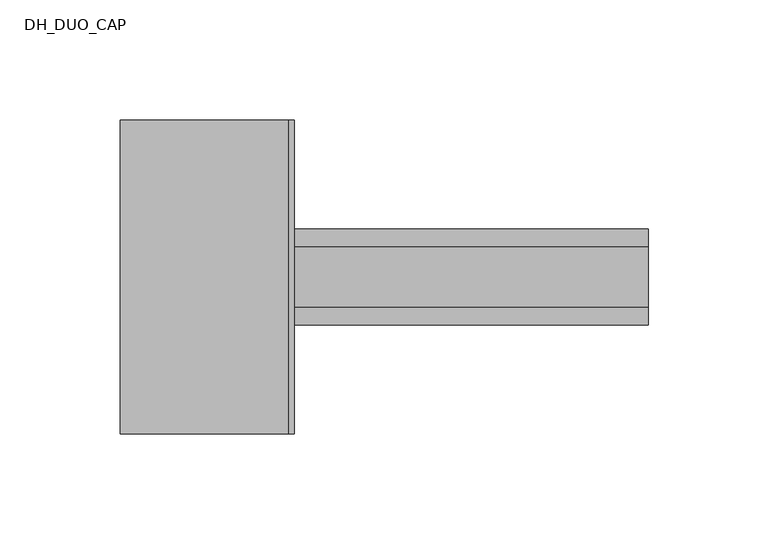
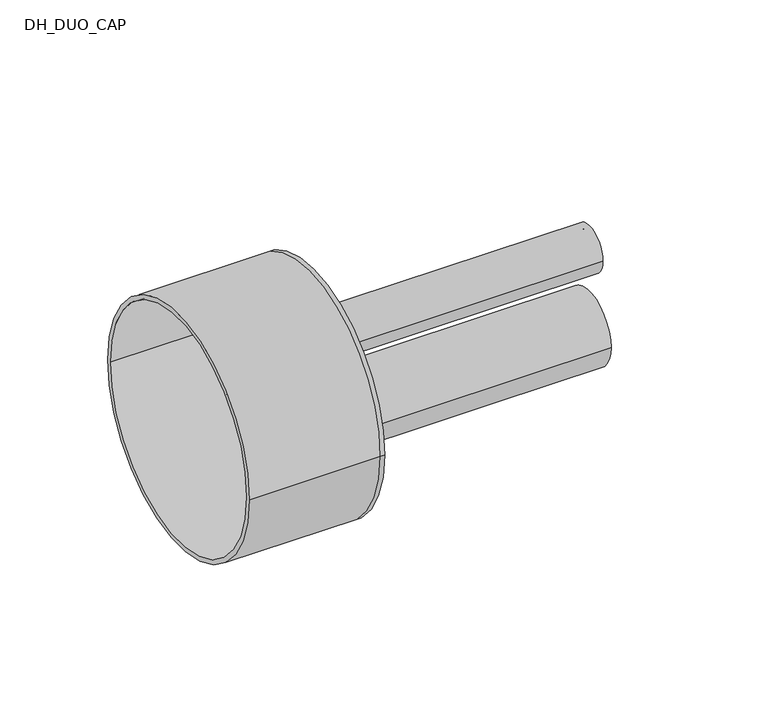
"""IFC4 building model written with IfcOpenShell, lengths in millimetres: pipe fitting geometry, DH_DUO_CAP : RAUTHERMEX DUO 7.4 DW - Solid Cap."""

import ifcopenshell
import ifcopenshell.guid

model = None  # the IFC model being written
_history = None  # IfcOwnerHistory: only IFC2X3 demands one
_inside = {}  # id of a spatial element -> (the spatial element, [elements in it])
_under = {}  # id of a project, library or spatial element -> (it, [spatial elements below it])
_declared = {}  # id of a project -> (the project, [libraries it declares])
_typed = {}  # id of a type object -> (the type object, [elements of that type])
_made_of = {}  # id of a material, layer set ... -> (it, [elements and type objects made of it])


def new_model(schema):
    """Start an empty IFC model of exactly this schema.

    Asked for "IFC4X3", IfcOpenShell would pick the latest addendum, in which some entities
    have other attributes; the version numbers below select the first issue.
    IFC2X3 requires an IfcOwnerHistory on every rooted entity: one is made here for all.
    """
    global model, _history
    if schema == "IFC4X3":
        model = ifcopenshell.file(schema_version=(4, 3, 0, 0))
    else:
        model = ifcopenshell.file(schema=schema)
    _inside.clear()
    _under.clear()
    _declared.clear()
    _typed.clear()
    _made_of.clear()
    _history = None
    if model.schema == "IFC2X3":
        org = make("IfcOrganization", Name="unknown")
        user = make(
            "IfcPersonAndOrganization",
            ThePerson=make("IfcPerson", FamilyName="unknown"),
            TheOrganization=org,
        )
        app = make(
            "IfcApplication",
            ApplicationDeveloper=org,
            Version="unknown",
            ApplicationFullName="unknown",
            ApplicationIdentifier="unknown",
        )
        _history = make(
            "IfcOwnerHistory",
            OwningUser=user,
            OwningApplication=app,
            ChangeAction="ADDED",
            CreationDate=0,
        )
    return model


def make(cls, **values):
    """One entity of the class cls with the attributes given. An attribute that is None is left unset."""
    return model.create_entity(
        cls, **{name: value for name, value in values.items() if value is not None}
    )


def rooted(cls, **values):
    """An entity with a GlobalId (a new one), such as an element, a storey or a relation."""
    return make(cls, GlobalId=ifcopenshell.guid.new(), OwnerHistory=_history, **values)


def si_unit(unit_type, name, prefix=None):
    """IfcSIUnit, for example si_unit("LENGTHUNIT", "METRE", prefix="MILLI")."""
    return make("IfcSIUnit", UnitType=unit_type, Prefix=prefix, Name=name)


def assignment(units):
    """IfcUnitAssignment: the units of a project."""
    return None if units is None else make("IfcUnitAssignment", Units=units)


def point(xyz):
    """IfcCartesianPoint."""
    return None if xyz is None else make("IfcCartesianPoint", Coordinates=xyz)


def direction(xyz):
    """IfcDirection."""
    return None if xyz is None else make("IfcDirection", DirectionRatios=xyz)


def frame(location, z_axis=None, x_axis=None):
    """IfcAxis2Placement3D, a coordinate frame: its origin and axes. An axis left out is left unset."""
    return make(
        "IfcAxis2Placement3D",
        Location=point(location),
        Axis=direction(z_axis),
        RefDirection=direction(x_axis),
    )


def frame_2d(location, x_axis=None):
    """IfcAxis2Placement2D, a coordinate frame in the plane: its origin and x axis."""
    return make(
        "IfcAxis2Placement2D", Location=point(location), RefDirection=direction(x_axis)
    )


def origin():
    """The frame at (0, 0, 0) with its axes left unset."""
    return frame((0.0, 0.0, 0.0))


def place(relative_to, where):
    """IfcLocalPlacement: puts the frame where relative to a parent placement (None: the world)."""
    return make(
        "IfcLocalPlacement", PlacementRelTo=relative_to, RelativePlacement=where
    )


def context(
    kind, dimensions, precision=None, world=None, true_north=None, identifier=None
):
    """IfcGeometricRepresentationContext, for example the 3D "Model" context."""
    return make(
        "IfcGeometricRepresentationContext",
        ContextIdentifier=identifier,
        ContextType=kind,
        CoordinateSpaceDimension=dimensions,
        Precision=precision,
        WorldCoordinateSystem=world,
        TrueNorth=true_north,
    )


def project(units=None, contexts=None):
    """IfcProject with its units and contexts."""
    return rooted(
        "IfcProject",
        Name="project",
        RepresentationContexts=contexts,
        UnitsInContext=assignment(units),
    )


def spatial(cls, under=None, at=None, **own):
    """A site, building, storey or space (cls), placed at a placement, below another one or the project."""
    s = rooted(cls, ObjectPlacement=at, **own)
    if under is not None:
        _under.setdefault(under.id(), (under, []))[1].append(s)
    return s


def polyline(points):
    """IfcPolyline through the points."""
    return make("IfcPolyline", Points=[point(p) for p in points])


def circle_curve(where, radius):
    """IfcCircle in the frame where."""
    return make("IfcCircle", Position=where, Radius=radius)


def trimmed(basis, trim1, trim2, sense, master):
    """IfcTrimmedCurve: the piece of a basis curve between two trims."""
    return make(
        "IfcTrimmedCurve",
        BasisCurve=basis,
        Trim1=trim1,
        Trim2=trim2,
        SenseAgreement=sense,
        MasterRepresentation=master,
    )


def segment(curve, same_sense, transition):
    """IfcCompositeCurveSegment."""
    return make(
        "IfcCompositeCurveSegment",
        Transition=transition,
        SameSense=same_sense,
        ParentCurve=curve,
    )


def composite_curve(segments, self_intersect=None):
    """IfcCompositeCurve: segments joined end to end."""
    return make("IfcCompositeCurve", Segments=segments, SelfIntersect=self_intersect)


def outline(outer, holes=None, kind="AREA"):
    """IfcArbitraryClosedProfileDef: a profile drawn as a closed curve; with holes, ...WithVoids."""
    if holes is None:
        return make("IfcArbitraryClosedProfileDef", ProfileType=kind, OuterCurve=outer)
    return make(
        "IfcArbitraryProfileDefWithVoids",
        ProfileType=kind,
        OuterCurve=outer,
        InnerCurves=holes,
    )


def extrude(swept, where, along, depth):
    """IfcExtrudedAreaSolid: the profile swept, set in the frame where, extruded along a direction by depth."""
    return make(
        "IfcExtrudedAreaSolid",
        SweptArea=swept,
        Position=where,
        ExtrudedDirection=direction(along),
        Depth=depth,
    )


def shape(context_of_items, identifier, shape_type, items):
    """IfcShapeRepresentation: the items that make up one representation, for example the "Body"."""
    return make(
        "IfcShapeRepresentation",
        ContextOfItems=context_of_items,
        RepresentationIdentifier=identifier,
        RepresentationType=shape_type,
        Items=items,
    )


def source(mapping_origin, context_of_items, identifier, shape_type, items):
    """IfcRepresentationMap: a shape defined once, which mapped items show again and again."""
    return make(
        "IfcRepresentationMap",
        MappingOrigin=mapping_origin,
        MappedRepresentation=shape(context_of_items, identifier, shape_type, items),
    )


def transform(
    local_origin,
    x_axis=None,
    y_axis=None,
    z_axis=None,
    scale=None,
    scale2=None,
    scale3=None,
    uniform=True,
):
    """IfcCartesianTransformationOperator3D, or its non-uniform kind. x_axis, y_axis, z_axis: its Axis1, 2, 3."""
    if uniform:
        return make(
            "IfcCartesianTransformationOperator3D",
            Axis1=direction(x_axis),
            Axis2=direction(y_axis),
            LocalOrigin=point(local_origin),
            Scale=scale,
            Axis3=direction(z_axis),
        )
    return make(
        "IfcCartesianTransformationOperator3DnonUniform",
        Axis1=direction(x_axis),
        Axis2=direction(y_axis),
        LocalOrigin=point(local_origin),
        Scale=scale,
        Axis3=direction(z_axis),
        Scale2=scale2,
        Scale3=scale3,
    )


def mapped(mapping_source, mapping_target):
    """IfcMappedItem: shows the shape of a source again, moved by a transform."""
    return make(
        "IfcMappedItem", MappingSource=mapping_source, MappingTarget=mapping_target
    )


def made_of(thing, what):
    """Note that an element or type object is made of a material, layer set ...; save() writes the relation."""
    if what is not None:
        _made_of.setdefault(what.id(), (what, []))[1].append(thing)
    return thing


def element(
    cls,
    number,
    at=None,
    inside=None,
    cuts=None,
    type_object=None,
    material=None,
    context=None,
    identifier="Body",
    shape_type=None,
    held_by="IfcProductDefinitionShape",
    body=None,
    shapes=None,
    **own,
):
    """One element of the class cls, such as IfcWall. Its Tag is "e" and its number.

    at: its placement. inside: the storey or other place that contains it. cuts: it is an
    opening in that element (IfcRelVoidsElement). A single representation is given by context,
    identifier, shape_type and body (its items); several are given by shapes. held_by: the class
    of the entity that holds the representations. save() writes the other relations.
    """
    e = rooted(cls, Tag="e%d" % number, ObjectPlacement=at, **own)
    if body is not None:
        shapes = [shape(context, identifier, shape_type, body)]
    if shapes is not None:
        e.Representation = make(held_by, Representations=shapes)
    if inside is not None:
        _inside.setdefault(inside.id(), (inside, []))[1].append(e)
    if cuts is not None:
        rooted(
            "IfcRelVoidsElement", RelatingBuildingElement=cuts, RelatedOpeningElement=e
        )
    if type_object is not None:
        _typed.setdefault(type_object.id(), (type_object, []))[1].append(e)
    return made_of(e, material)


def aggregate(whole, parts):
    """IfcRelAggregates: a whole, such as a stair, and the parts it consists of."""
    return rooted("IfcRelAggregates", RelatingObject=whole, RelatedObjects=parts)


def save(model, path):
    """Write the relations noted so far, then the file.

    IfcRelAggregates (storeys below a building ...), IfcRelContainedInSpatialStructure (elements
    in a storey), IfcRelDefinesByType, IfcRelAssociatesMaterial and IfcRelDeclares: one each for
    every whole, place, type object, material and project.
    """
    for whole, parts in _under.values():
        aggregate(whole, parts)
    for where, things in _inside.values():
        rooted(
            "IfcRelContainedInSpatialStructure",
            RelatedElements=things,
            RelatingStructure=where,
        )
    for kind, things in _typed.values():
        rooted("IfcRelDefinesByType", RelatedObjects=things, RelatingType=kind)
    for what, things in _made_of.values():
        rooted("IfcRelAssociatesMaterial", RelatedObjects=things, RelatingMaterial=what)
    for by, libraries in _declared.values():
        rooted("IfcRelDeclares", RelatingContext=by, RelatedDefinitions=libraries)
    model.write(path)


def plane_surface(at):
    """IfcPlane: the flat surface through the origin of the frame at, square to its z axis."""
    return make("IfcPlane", Position=at)


def cylinder_surface(at, radius):
    """IfcCylindricalSurface: all points at the distance radius from the z axis of the frame at."""
    return make("IfcCylindricalSurface", Position=at, Radius=radius)


def revolved_surface(curve, axis_point, axis_direction):
    """IfcSurfaceOfRevolution: the curve turned about the line through axis_point along axis_direction."""
    return make(
        "IfcSurfaceOfRevolution",
        SweptCurve=make("IfcArbitraryOpenProfileDef", ProfileType="CURVE", Curve=curve),
        AxisPosition=make("IfcAxis1Placement", Location=point(axis_point), Axis=direction(axis_direction)),
    )


def advanced_brep(points, edges, surfaces, faces):
    """IfcAdvancedBrep: a solid bounded by faces that lie on surfaces and meet in shared edges.

    An edge is (start, end): straight between two places in points (the first is 0);
    or (start, end, curve); or (start, end, curve, False) where it runs against its curve.
    A face is (place in surfaces, loops), or (place, loops, False) where it looks against
    its surface's normal. A loop lists edges by number (the first is 1), with a minus sign
    where the edge is run from its end to its start. The first loop is the outer one.
    """
    corners = [point(p) for p in points]
    vertices = [make("IfcVertexPoint", VertexGeometry=c) for c in corners]
    made = []
    for start, end, *more in edges:
        made.append(
            make(
                "IfcEdgeCurve",
                EdgeStart=vertices[start],
                EdgeEnd=vertices[end],
                EdgeGeometry=more[0] if more else make("IfcPolyline", Points=[corners[start], corners[end]]),
                SameSense=more[1] if len(more) > 1 else True,
            )
        )
    hull = []
    for where, loops, *sense in faces:
        bounds = []
        for j, loop in enumerate(loops):
            ring = [make("IfcOrientedEdge", EdgeElement=made[abs(k) - 1], Orientation=k > 0) for k in loop]
            bounds.append(
                make(
                    "IfcFaceOuterBound" if j == 0 else "IfcFaceBound",
                    Bound=make("IfcEdgeLoop", EdgeList=ring),
                    Orientation=True,
                )
            )
        hull.append(make("IfcAdvancedFace", Bounds=bounds, FaceSurface=surfaces[where], SameSense=sense[0] if sense else True))
    return make("IfcAdvancedBrep", Outer=make("IfcClosedShell", CfsFaces=hull))


def dh_duo_cap_4cde6626(model_context):
    return source(origin(), model_context, "Body", "SolidModel", [
        extrude(outline(composite_curve([segment(trimmed(circle_curve(frame_2d((0.0, -18.5)), 20.0), [point((-20.0, -18.5))], [point((20.0, -18.5))], False, "CARTESIAN"), True, "CONTINUOUS"), segment(trimmed(circle_curve(frame_2d((0.0, -18.5)), 20.0), [point((20.0, -18.5))], [point((-20.0, -18.5))], False, "CARTESIAN"), True, "CONTINUOUS")], self_intersect=False), holes=[composite_curve([segment(trimmed(circle_curve(frame_2d((0.0, -18.5)), 14.5), [point((-14.5, -18.5))], [point((14.5, -18.5))], True, "CARTESIAN"), True, "CONTINUOUS"), segment(trimmed(circle_curve(frame_2d((0.0, -18.5)), 14.5), [point((14.5, -18.5))], [point((-14.5, -18.5))], True, "CARTESIAN"), True, "CONTINUOUS")], self_intersect=False)]), frame((0.0, 0.0, 0.0), z_axis=(1.0, 0.0, 0.0), x_axis=(0.0, 1.0, 0.0)), (0.0, 0.0, 1.0), 150.0),
        extrude(outline(composite_curve([segment(trimmed(circle_curve(frame_2d((0.0, 26.0)), 12.5), [point((-12.5, 26.0))], [point((12.5, 26.0))], False, "CARTESIAN"), True, "CONTINUOUS"), segment(trimmed(circle_curve(frame_2d((0.0, 26.0)), 12.5), [point((12.5, 26.0))], [point((-12.5, 26.0))], False, "CARTESIAN"), True, "CONTINUOUS")], self_intersect=False), holes=[composite_curve([segment(trimmed(circle_curve(frame_2d((0.0, 26.0)), 9.0), [point((-9.0, 26.0))], [point((9.0, 26.0))], True, "CARTESIAN"), True, "CONTINUOUS"), segment(trimmed(circle_curve(frame_2d((0.0, 26.0)), 9.0), [point((9.0, 26.0))], [point((-9.0, 26.0))], True, "CARTESIAN"), True, "CONTINUOUS")], self_intersect=False)]), frame((0.0, 0.0, 0.0), z_axis=(1.0, 0.0, 0.0), x_axis=(0.0, 1.0, 0.0)), (0.0, 0.0, 1.0), 150.0),
        advanced_brep(
        [(-70.0, -65.5, 0.0), (-70.0, 65.5, 0.0), (-70.0, -63.0, 0.0), (-70.0, 63.0, 0.0), (0.0, -63.0, 0.0), (0.0, 63.0, 0.0), (0.0, -65.5, 0.0), (0.0, 65.5, 0.0), (0.0, 12.5, 26.0), (0.0, -12.5, 26.0), (0.0, 20.0, -18.5), (0.0, -20.0, -18.5), (2.5, -65.5, 0.0), (2.5, 65.5, 0.0), (2.5, -12.5, 26.0), (2.5, 12.5, 26.0), (2.5, -20.0, -18.5), (2.5, 20.0, -18.5)],
        [
            (0, 1, circle_curve(frame((-70.0, 0.0, 0.0), z_axis=(-1.0, 0.0, 0.0), x_axis=(0.0, 1.0, 0.0)), 65.5)),
            (1, 0, circle_curve(frame((-70.0, 0.0, 0.0), z_axis=(-1.0, 0.0, 0.0), x_axis=(0.0, 1.0, 0.0)), 65.5)),
            (2, 3, circle_curve(frame((-70.0, 0.0, 0.0), z_axis=(1.0, 0.0, 0.0), x_axis=(0.0, 1.0, 0.0)), 63.0)),
            (3, 2, circle_curve(frame((-70.0, 0.0, 0.0), z_axis=(1.0, 0.0, 0.0), x_axis=(0.0, 1.0, 0.0)), 63.0)),
            (2, 4),
            (4, 5, circle_curve(frame((0.0, 0.0, 0.0), z_axis=(1.0, 0.0, 0.0), x_axis=(0.0, 1.0, 0.0)), 63.0)),
            (5, 3),
            (5, 4, circle_curve(frame((0.0, 0.0, 0.0), z_axis=(1.0, 0.0, 0.0), x_axis=(0.0, 1.0, 0.0)), 63.0)),
            (0, 6),
            (6, 7, circle_curve(frame((0.0, 0.0, 0.0), z_axis=(-1.0, 0.0, 0.0), x_axis=(0.0, 1.0, 0.0)), 65.5)),
            (7, 1),
            (7, 6, circle_curve(frame((0.0, 0.0, 0.0), z_axis=(-1.0, 0.0, 0.0), x_axis=(0.0, 1.0, 0.0)), 65.5)),
            (8, 9, circle_curve(frame((0.0, 0.0, 26.0), z_axis=(1.0, 0.0, 0.0), x_axis=(0.0, 1.0, 0.0)), 12.5)),
            (9, 8, circle_curve(frame((0.0, 0.0, 26.0), z_axis=(1.0, 0.0, 0.0), x_axis=(0.0, 1.0, 0.0)), 12.5)),
            (10, 11, circle_curve(frame((0.0, 0.0, -18.5), z_axis=(1.0, 0.0, 0.0), x_axis=(0.0, 1.0, 0.0)), 20.0)),
            (11, 10, circle_curve(frame((0.0, 0.0, -18.5), z_axis=(1.0, 0.0, 0.0), x_axis=(0.0, 1.0, 0.0)), 20.0)),
            (12, 13, circle_curve(frame((2.5, 0.0, 0.0), z_axis=(1.0, 0.0, 0.0), x_axis=(0.0, 1.0, 0.0)), 65.5)),
            (13, 12, circle_curve(frame((2.5, 0.0, 0.0), z_axis=(1.0, 0.0, 0.0), x_axis=(0.0, 1.0, 0.0)), 65.5)),
            (14, 15, circle_curve(frame((2.5, 0.0, 26.0), z_axis=(-1.0, 0.0, 0.0), x_axis=(0.0, 1.0, 0.0)), 12.5)),
            (15, 14, circle_curve(frame((2.5, 0.0, 26.0), z_axis=(-1.0, 0.0, 0.0), x_axis=(0.0, 1.0, 0.0)), 12.5)),
            (16, 17, circle_curve(frame((2.5, 0.0, -18.5), z_axis=(-1.0, 0.0, 0.0), x_axis=(0.0, 1.0, 0.0)), 20.0)),
            (17, 16, circle_curve(frame((2.5, 0.0, -18.5), z_axis=(-1.0, 0.0, 0.0), x_axis=(0.0, 1.0, 0.0)), 20.0)),
            (13, 7),
            (6, 12),
            (8, 15),
            (14, 9),
            (10, 17),
            (16, 11),
        ],
        [
            plane_surface(frame((-70.0, 0.0, 0.0), z_axis=(-1.0, 0.0, 0.0), x_axis=(0.0, 0.0, 1.0))),
            revolved_surface(polyline([(0.0, 63.0, 0.0), (-70.0, 63.0, 0.0)]), (-70.0, 0.0, 0.0), (1.0, 0.0, 0.0)),
            cylinder_surface(frame((-70.0, 0.0, 0.0), z_axis=(-1.0, 0.0, 0.0), x_axis=(0.0, 1.0, 0.0)), 65.5),
            plane_surface(frame((0.0, 0.0, 0.0), z_axis=(-1.0, 0.0, 0.0), x_axis=(0.0, 0.0, 1.0))),
            plane_surface(frame((2.5, 0.0, 0.0), z_axis=(1.0, 0.0, 0.0), x_axis=(0.0, 0.0, 1.0))),
            cylinder_surface(frame((0.0, 0.0, 0.0), z_axis=(-1.0, 0.0, 0.0), x_axis=(0.0, 1.0, 0.0)), 65.5),
            revolved_surface(polyline([(0.0, 12.5, 26.0), (2.5, 12.5, 26.0)]), (0.0, 0.0, 26.0), (-1.0, 0.0, 0.0)),
            revolved_surface(polyline([(0.0, 20.0, -18.5), (2.5, 20.0, -18.5)]), (0.0, 0.0, -18.5), (-1.0, 0.0, 0.0)),
        ],
        [
            (0, [[1, 2], [3, 4]]),
            (1, [[-3, 5, 6, 7]]),
            (1, [[-4, -7, 8, -5]]),
            (2, [[-1, 9, 10, 11]]),
            (2, [[-2, -11, 12, -9]]),
            (3, [[-6, -8], [13, 14], [15, 16]]),
            (4, [[17, 18], [19, 20], [21, 22]]),
            (5, [[-18, 23, -10, 24]]),
            (5, [[-17, -24, -12, -23]]),
            (6, [[25, -19, 26, -13]]),
            (6, [[-25, -14, -26, -20]]),
            (7, [[27, -21, 28, -15]]),
            (7, [[-27, -16, -28, -22]]),
        ],
    ),
    ])


if __name__ == "__main__":
    model = new_model("IFC4")
    model_context = context("Model", 3, world=origin())
    ifc_project = project(units=[si_unit("LENGTHUNIT", "METRE", prefix="MILLI")], contexts=[model_context])
    site = spatial("IfcSite", under=ifc_project)
    building = spatial("IfcBuilding", under=site)
    placement = place(None, origin())
    dh_duo_cap_shape = dh_duo_cap_4cde6626(model_context)
    element("IfcPipeFitting", 1, ObjectType="DH_DUO_CAP : RAUTHERMEX DUO 7.4 DW - Solid Cap", at=placement, inside=building, context=model_context, shape_type="MappedRepresentation", body=[
        mapped(dh_duo_cap_shape, transform((0.0, 0.0, 0.0), x_axis=(1.0, 0.0, 0.0), y_axis=(0.0, 1.0, 0.0), z_axis=(0.0, 0.0, 1.0))),
    ])
    save(model, "model.ifc")
